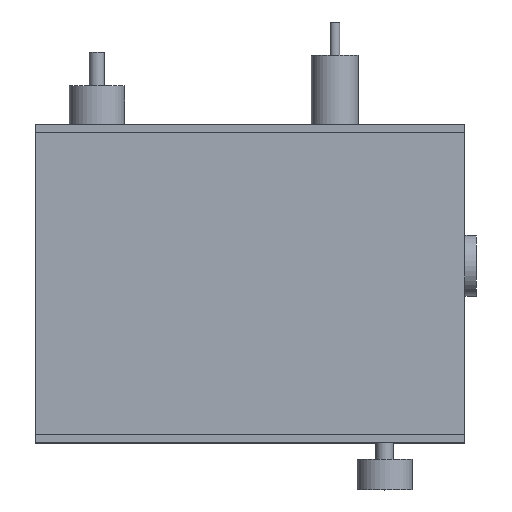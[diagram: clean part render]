
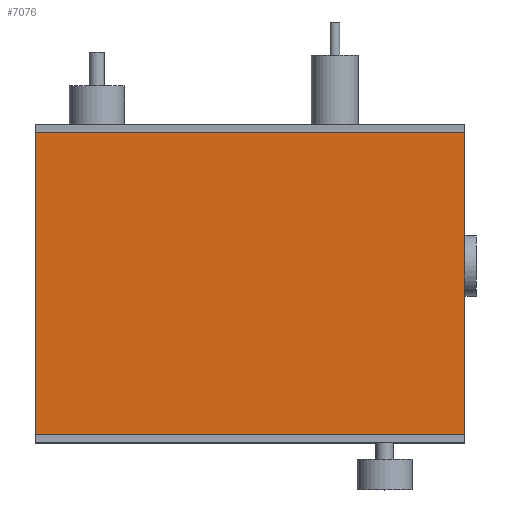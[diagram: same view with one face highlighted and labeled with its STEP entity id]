
A CAD part, top view. The second image highlights one B-rep face of the part: STEP entity #7076.
In plain terms, the highlighted planar face has unit normal (0, 0, 1).
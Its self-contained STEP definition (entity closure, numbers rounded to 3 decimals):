
#5449 = VERTEX_POINT('',#5450);
#5450 = CARTESIAN_POINT('',(0.,3.,100.));
#5457 = PLANE('',#5458);
#5458 = AXIS2_PLACEMENT_3D('',#5459,#5460,#5461);
#5459 = CARTESIAN_POINT('',(0.,3.,0.));
#5460 = DIRECTION('',(1.,0.,0.));
#5461 = DIRECTION('',(0.,0.,1.));
#5469 = PLANE('',#5470);
#5470 = AXIS2_PLACEMENT_3D('',#5471,#5472,#5473);
#5471 = CARTESIAN_POINT('',(0.,3.,0.));
#5472 = DIRECTION('',(0.,1.,0.));
#5473 = DIRECTION('',(0.,0.,1.));
#5510 = VERTEX_POINT('',#5511);
#5511 = CARTESIAN_POINT('',(0.,112.,100.));
#5525 = PLANE('',#5526);
#5526 = AXIS2_PLACEMENT_3D('',#5527,#5528,#5529);
#5527 = CARTESIAN_POINT('',(0.,112.,0.));
#5528 = DIRECTION('',(0.,1.,0.));
#5529 = DIRECTION('',(0.,0.,1.));
#5537 = EDGE_CURVE('',#5449,#5510,#5538,.T.);
#5538 = SURFACE_CURVE('',#5539,(#5543,#5550),.PCURVE_S1.);
#5539 = LINE('',#5540,#5541);
#5540 = CARTESIAN_POINT('',(0.,3.,100.));
#5541 = VECTOR('',#5542,1.);
#5542 = DIRECTION('',(0.,1.,0.));
#5543 = PCURVE('',#5457,#5544);
#5544 = DEFINITIONAL_REPRESENTATION('',(#5545),#5549);
#5545 = LINE('',#5546,#5547);
#5546 = CARTESIAN_POINT('',(100.,0.));
#5547 = VECTOR('',#5548,1.);
#5548 = DIRECTION('',(0.,-1.));
#5549 = ( GEOMETRIC_REPRESENTATION_CONTEXT(2) 
PARAMETRIC_REPRESENTATION_CONTEXT() REPRESENTATION_CONTEXT('2D SPACE',''
  ) );
#5550 = PCURVE('',#5551,#5556);
#5551 = PLANE('',#5552);
#5552 = AXIS2_PLACEMENT_3D('',#5553,#5554,#5555);
#5553 = CARTESIAN_POINT('',(0.,3.,100.));
#5554 = DIRECTION('',(0.,0.,1.));
#5555 = DIRECTION('',(1.,0.,0.));
#5556 = DEFINITIONAL_REPRESENTATION('',(#5557),#5561);
#5557 = LINE('',#5558,#5559);
#5558 = CARTESIAN_POINT('',(0.,0.));
#5559 = VECTOR('',#5560,1.);
#5560 = DIRECTION('',(0.,1.));
#5561 = ( GEOMETRIC_REPRESENTATION_CONTEXT(2) 
PARAMETRIC_REPRESENTATION_CONTEXT() REPRESENTATION_CONTEXT('2D SPACE',''
  ) );
#6922 = EDGE_CURVE('',#5449,#6923,#6925,.T.);
#6923 = VERTEX_POINT('',#6924);
#6924 = CARTESIAN_POINT('',(155.,3.,100.));
#6925 = SURFACE_CURVE('',#6926,(#6930,#6937),.PCURVE_S1.);
#6926 = LINE('',#6927,#6928);
#6927 = CARTESIAN_POINT('',(0.,3.,100.));
#6928 = VECTOR('',#6929,1.);
#6929 = DIRECTION('',(1.,0.,0.));
#6930 = PCURVE('',#5469,#6931);
#6931 = DEFINITIONAL_REPRESENTATION('',(#6932),#6936);
#6932 = LINE('',#6933,#6934);
#6933 = CARTESIAN_POINT('',(100.,0.));
#6934 = VECTOR('',#6935,1.);
#6935 = DIRECTION('',(0.,1.));
#6936 = ( GEOMETRIC_REPRESENTATION_CONTEXT(2) 
PARAMETRIC_REPRESENTATION_CONTEXT() REPRESENTATION_CONTEXT('2D SPACE',''
  ) );
#6937 = PCURVE('',#5551,#6938);
#6938 = DEFINITIONAL_REPRESENTATION('',(#6939),#6943);
#6939 = LINE('',#6940,#6941);
#6940 = CARTESIAN_POINT('',(0.,0.));
#6941 = VECTOR('',#6942,1.);
#6942 = DIRECTION('',(1.,0.));
#6943 = ( GEOMETRIC_REPRESENTATION_CONTEXT(2) 
PARAMETRIC_REPRESENTATION_CONTEXT() REPRESENTATION_CONTEXT('2D SPACE',''
  ) );
#6959 = PLANE('',#6960);
#6960 = AXIS2_PLACEMENT_3D('',#6961,#6962,#6963);
#6961 = CARTESIAN_POINT('',(155.,3.,0.));
#6962 = DIRECTION('',(1.,0.,0.));
#6963 = DIRECTION('',(0.,0.,1.));
#7076 = ADVANCED_FACE('',(#7077),#5551,.T.);
#7077 = FACE_BOUND('',#7078,.T.);
#7078 = EDGE_LOOP('',(#7079,#7080,#7081,#7104));
#7079 = ORIENTED_EDGE('',*,*,#5537,.F.);
#7080 = ORIENTED_EDGE('',*,*,#6922,.T.);
#7081 = ORIENTED_EDGE('',*,*,#7082,.T.);
#7082 = EDGE_CURVE('',#6923,#7083,#7085,.T.);
#7083 = VERTEX_POINT('',#7084);
#7084 = CARTESIAN_POINT('',(155.,112.,100.));
#7085 = SURFACE_CURVE('',#7086,(#7090,#7097),.PCURVE_S1.);
#7086 = LINE('',#7087,#7088);
#7087 = CARTESIAN_POINT('',(155.,3.,100.));
#7088 = VECTOR('',#7089,1.);
#7089 = DIRECTION('',(0.,1.,0.));
#7090 = PCURVE('',#5551,#7091);
#7091 = DEFINITIONAL_REPRESENTATION('',(#7092),#7096);
#7092 = LINE('',#7093,#7094);
#7093 = CARTESIAN_POINT('',(155.,0.));
#7094 = VECTOR('',#7095,1.);
#7095 = DIRECTION('',(0.,1.));
#7096 = ( GEOMETRIC_REPRESENTATION_CONTEXT(2) 
PARAMETRIC_REPRESENTATION_CONTEXT() REPRESENTATION_CONTEXT('2D SPACE',''
  ) );
#7097 = PCURVE('',#6959,#7098);
#7098 = DEFINITIONAL_REPRESENTATION('',(#7099),#7103);
#7099 = LINE('',#7100,#7101);
#7100 = CARTESIAN_POINT('',(100.,0.));
#7101 = VECTOR('',#7102,1.);
#7102 = DIRECTION('',(0.,-1.));
#7103 = ( GEOMETRIC_REPRESENTATION_CONTEXT(2) 
PARAMETRIC_REPRESENTATION_CONTEXT() REPRESENTATION_CONTEXT('2D SPACE',''
  ) );
#7104 = ORIENTED_EDGE('',*,*,#7105,.F.);
#7105 = EDGE_CURVE('',#5510,#7083,#7106,.T.);
#7106 = SURFACE_CURVE('',#7107,(#7111,#7118),.PCURVE_S1.);
#7107 = LINE('',#7108,#7109);
#7108 = CARTESIAN_POINT('',(0.,112.,100.));
#7109 = VECTOR('',#7110,1.);
#7110 = DIRECTION('',(1.,0.,0.));
#7111 = PCURVE('',#5551,#7112);
#7112 = DEFINITIONAL_REPRESENTATION('',(#7113),#7117);
#7113 = LINE('',#7114,#7115);
#7114 = CARTESIAN_POINT('',(0.,109.));
#7115 = VECTOR('',#7116,1.);
#7116 = DIRECTION('',(1.,0.));
#7117 = ( GEOMETRIC_REPRESENTATION_CONTEXT(2) 
PARAMETRIC_REPRESENTATION_CONTEXT() REPRESENTATION_CONTEXT('2D SPACE',''
  ) );
#7118 = PCURVE('',#5525,#7119);
#7119 = DEFINITIONAL_REPRESENTATION('',(#7120),#7124);
#7120 = LINE('',#7121,#7122);
#7121 = CARTESIAN_POINT('',(100.,0.));
#7122 = VECTOR('',#7123,1.);
#7123 = DIRECTION('',(0.,1.));
#7124 = ( GEOMETRIC_REPRESENTATION_CONTEXT(2) 
PARAMETRIC_REPRESENTATION_CONTEXT() REPRESENTATION_CONTEXT('2D SPACE',''
  ) );
